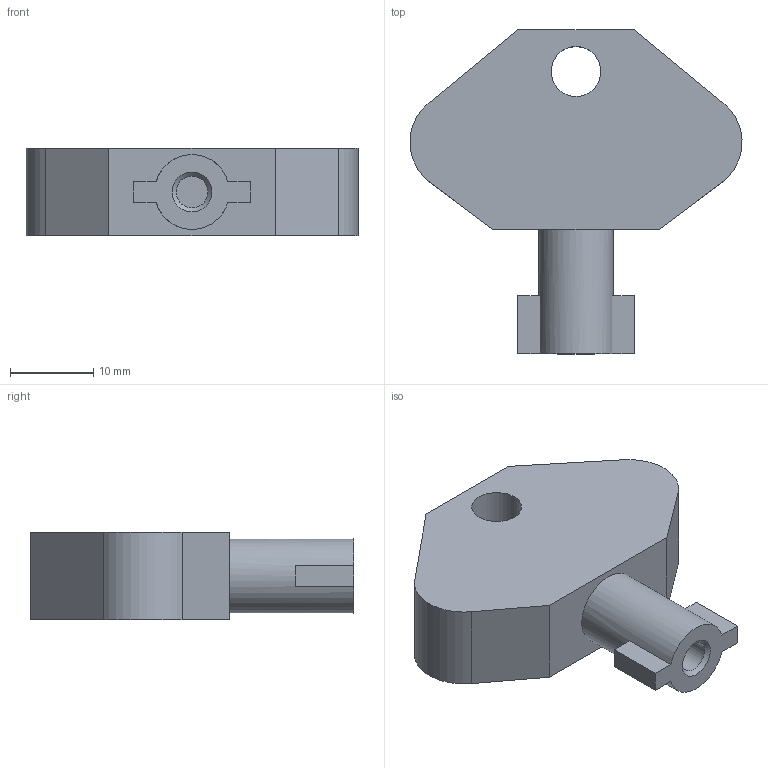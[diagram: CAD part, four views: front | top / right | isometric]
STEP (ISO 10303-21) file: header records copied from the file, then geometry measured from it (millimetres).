
FILE_DESCRIPTION( ( 'STEP AP214' ), '1' );
FILE_NAME( 'p:/temp/worker_35/temp/exporttempdir_4692_79_r30R0/format_0/LSK502(0).stp', '2020-08-28T15:43:03', ( 'License CC BY-ND 4.0' ), ( 'CADENAS' ), ' ', 'PARTsolutions', ' ' );
FILE_SCHEMA( ( 'AUTOMOTIVE_DESIGN { 1 0 10303 214 1 1 1 1 }' ) );
Length unit declared in the file: millimetre
Products named in the file (1): _LSK502(0)
Bounding box: 39.98 x 39 x 10.59 mm (x, y, z)
Volume: 8439.1 mm3; surface area: 3402.1 mm2
Topology: 1 solids, 1 shells, 24 faces, 59 edges, 39 vertices
Faces by surface type: plane 18, cylinder 5, cone 1
Full cylindrical faces by diameter (mm): 3.8 x1, 6 x1, 9 x1
Entity records: 892 total; most frequent: DIRECTION 118, CARTESIAN_POINT 117, ORIENTED_EDGE 108, EDGE_CURVE 54, LINE 40, VECTOR 40, AXIS2_PLACEMENT_3D 39, VERTEX_POINT 38
